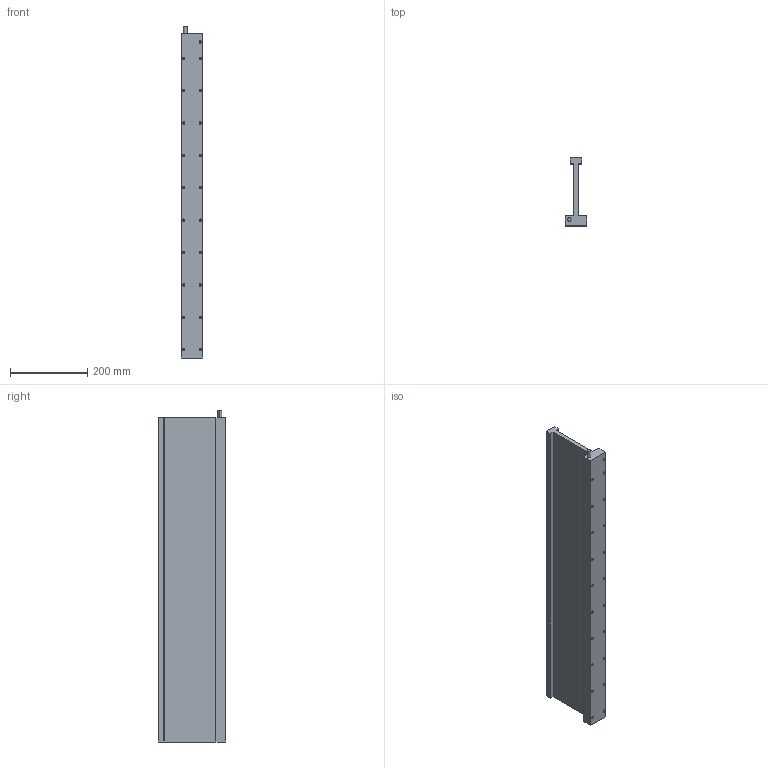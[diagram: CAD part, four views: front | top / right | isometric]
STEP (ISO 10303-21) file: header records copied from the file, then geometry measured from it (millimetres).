
FILE_DESCRIPTION (( 'STEP AP214' ), '1' );
FILE_NAME ('JKA6-5.STEP', '2025-09-05T12:53:46', ( '' ), ( '' ), 'SwSTEP 2.0', 'SolidWorks 2016', '' );
FILE_SCHEMA (( 'AUTOMOTIVE_DESIGN' ));
Length unit declared in the file: millimetre
Products named in the file (1): JKA6-5
Bounding box: 55.1 x 175.5 x 861 mm (x, y, z)
Volume: 2764532.5 mm3; surface area: 429816.7 mm2
Topology: 1 solids, 1 shells, 143 faces, 336 edges, 175 vertices
Faces by surface type: cone 84, cylinder 44, plane 15
Entity records: 4230 total; most frequent: DIRECTION 712, CARTESIAN_POINT 613, ORIENTED_EDGE 588, EDGE_CURVE 294, AXIS2_PLACEMENT_3D 274, VERTEX_POINT 175, EDGE_LOOP 165, LINE 164
